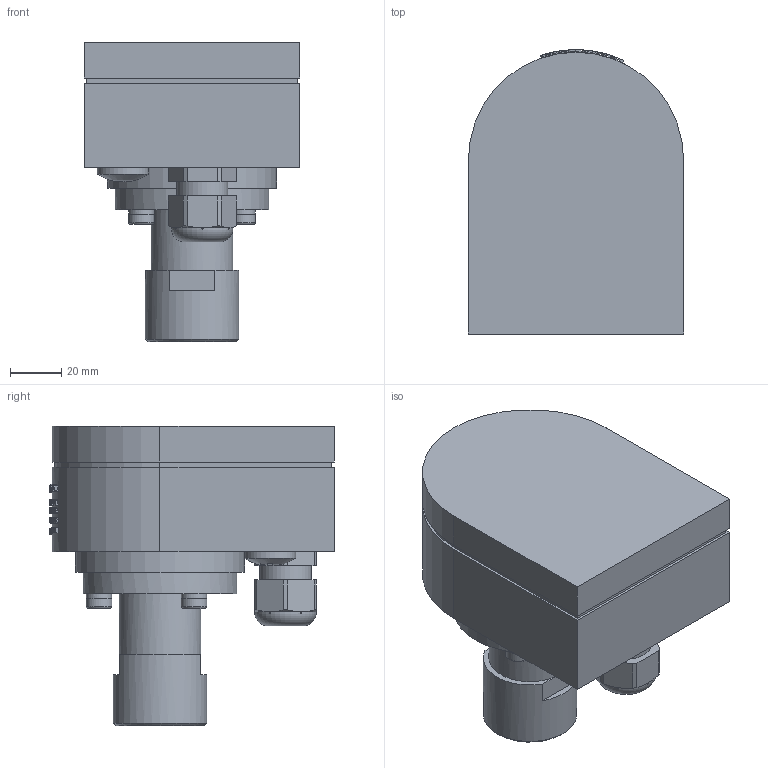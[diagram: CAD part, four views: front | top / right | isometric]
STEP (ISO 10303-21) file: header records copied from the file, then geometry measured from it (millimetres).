
FILE_DESCRIPTION(/* description */ (''),/* implementation_level */ '2;1');
FILE_NAME(/* name */ 'P:\ILC\LC-H_M-ME\LC-H_M-ME.stp',/* time_stamp */ '2020-06-05T13:44:49+02:00',/* author */ ('neufeld'),/* organization */ (''),/* preprocessor_version */ 'ST-DEVELOPER v17',/* originating_system */ 'Autodesk Inventor 2019',/* authorisation */ '');
FILE_SCHEMA (('AUTOMOTIVE_DESIGN { 1 0 10303 214 3 1 1 }'));
Products named in the file (1): LC-H_M-ME_AG-Kunde
Bounding box: 84 x 111 x 117 mm (x, y, z)
Volume: 515794.5 mm3; surface area: 51035.9 mm2
Topology: 1 solids, 2 shells, 1210 faces, 3305 edges, 2217 vertices
Faces by surface type: plane 724, bspline 348, cylinder 120, cone 11, torus 7
Full cylindrical faces by diameter (mm): 6 x3, 10 x3, 10.9 x1, 13.5 x1, 20 x3, 22.22 x1, 25.4 x1, 29.19 x1, 32 x2, 36.5 x1, 60 x1, 66 x1
Entity records: 50093 total; most frequent: CARTESIAN_POINT 20872, ORIENTED_EDGE 6588, DIRECTION 5119, EDGE_CURVE 3294, VERTEX_POINT 2201, AXIS2_PLACEMENT_3D 1755, LINE 1609, VECTOR 1609
